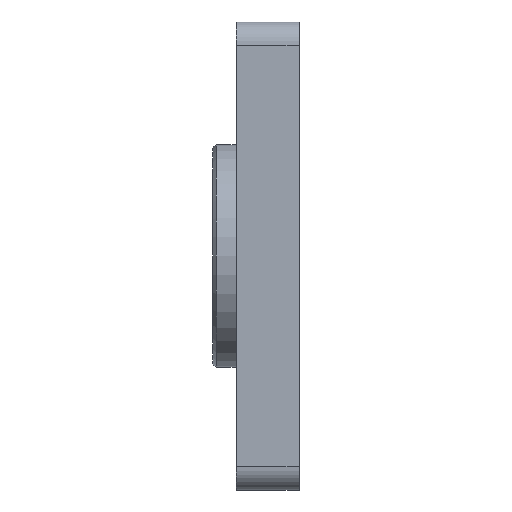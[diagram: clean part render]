
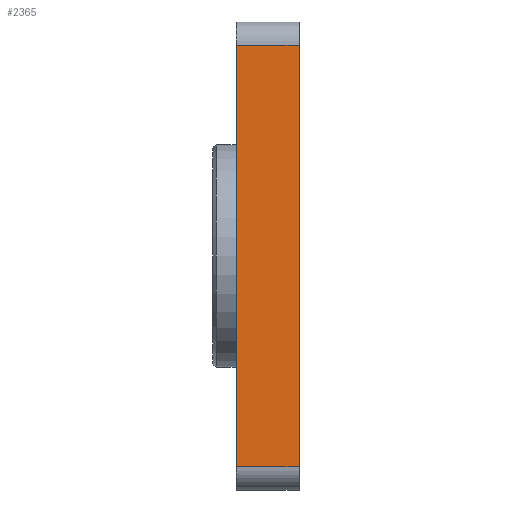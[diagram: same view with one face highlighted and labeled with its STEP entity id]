
A CAD part, left-side view. The second image highlights one B-rep face of the part: STEP entity #2365.
In plain terms, the highlighted planar face has unit normal (-1, 0, 0).
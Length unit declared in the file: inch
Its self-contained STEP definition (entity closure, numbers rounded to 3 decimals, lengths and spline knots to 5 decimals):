
#54 = DIRECTION ( 'NONE',  ( 1., 0., 0. ) ) ;
#78 = DIRECTION ( 'NONE',  ( 0., 1., 0. ) ) ;
#179 = VERTEX_POINT ( 'NONE', #1521 ) ;
#265 = LINE ( 'NONE', #1080, #284 ) ;
#284 = VECTOR ( 'NONE', #78, 39.37008 ) ;
#304 = VERTEX_POINT ( 'NONE', #1920 ) ;
#312 = CARTESIAN_POINT ( 'NONE',  ( -2.5, 0.35, -1.3 ) ) ;
#458 = FACE_OUTER_BOUND ( 'NONE', #646, .T. ) ;
#471 = LINE ( 'NONE', #866, #1411 ) ;
#646 = EDGE_LOOP ( 'NONE', ( #2439, #2027, #1136, #1263 ) ) ;
#739 = LINE ( 'NONE', #2636, #1707 ) ;
#798 = AXIS2_PLACEMENT_3D ( 'NONE', #312, #54, #854 ) ;
#826 = CARTESIAN_POINT ( 'NONE',  ( -2.5, 0.35, -1.17 ) ) ;
#834 = DIRECTION ( 'NONE',  ( 0., 0., 1. ) ) ;
#848 = CARTESIAN_POINT ( 'NONE',  ( -2.5, 0., -1.3 ) ) ;
#854 = DIRECTION ( 'NONE',  ( 0., 0., -1. ) ) ;
#866 = CARTESIAN_POINT ( 'NONE',  ( -2.5, 0.35, -1.3 ) ) ;
#989 = DIRECTION ( 'NONE',  ( 0., -1., 0. ) ) ;
#1080 = CARTESIAN_POINT ( 'NONE',  ( -2.5, 0.35, 1.17 ) ) ;
#1136 = ORIENTED_EDGE ( 'NONE', *, *, #2369, .F. ) ;
#1263 = ORIENTED_EDGE ( 'NONE', *, *, #2102, .T. ) ;
#1268 = EDGE_CURVE ( 'NONE', #304, #179, #265, .T. ) ;
#1399 = EDGE_CURVE ( 'NONE', #2156, #304, #2480, .T. ) ;
#1411 = VECTOR ( 'NONE', #2575, 39.37008 ) ;
#1417 = CARTESIAN_POINT ( 'NONE',  ( -2.5, 0., -1.17 ) ) ;
#1521 = CARTESIAN_POINT ( 'NONE',  ( -2.5, 0.35, 1.17 ) ) ;
#1707 = VECTOR ( 'NONE', #989, 39.37008 ) ;
#1920 = CARTESIAN_POINT ( 'NONE',  ( -2.5, 0., 1.17 ) ) ;
#2027 = ORIENTED_EDGE ( 'NONE', *, *, #1268, .T. ) ;
#2102 = EDGE_CURVE ( 'NONE', #2279, #2156, #739, .T. ) ;
#2156 = VERTEX_POINT ( 'NONE', #1417 ) ;
#2279 = VERTEX_POINT ( 'NONE', #826 ) ;
#2330 = PLANE ( 'NONE',  #798 ) ;
#2348 = VECTOR ( 'NONE', #834, 39.37008 ) ;
#2365 = ADVANCED_FACE ( 'NONE', ( #458 ), #2330, .F. ) ;
#2369 = EDGE_CURVE ( 'NONE', #2279, #179, #471, .T. ) ;
#2439 = ORIENTED_EDGE ( 'NONE', *, *, #1399, .T. ) ;
#2480 = LINE ( 'NONE', #848, #2348 ) ;
#2575 = DIRECTION ( 'NONE',  ( 0., 0., 1. ) ) ;
#2636 = CARTESIAN_POINT ( 'NONE',  ( -2.5, 0.35, -1.17 ) ) ;
